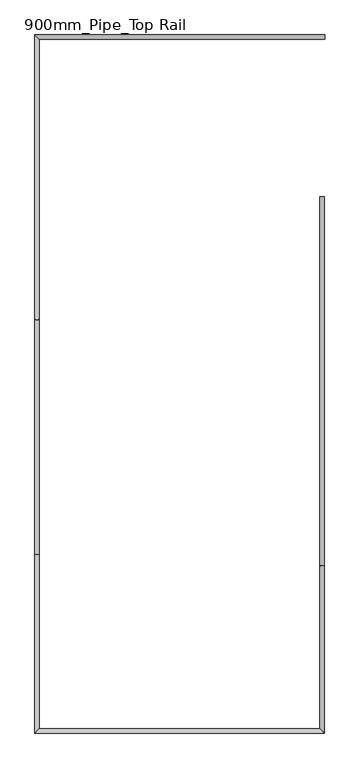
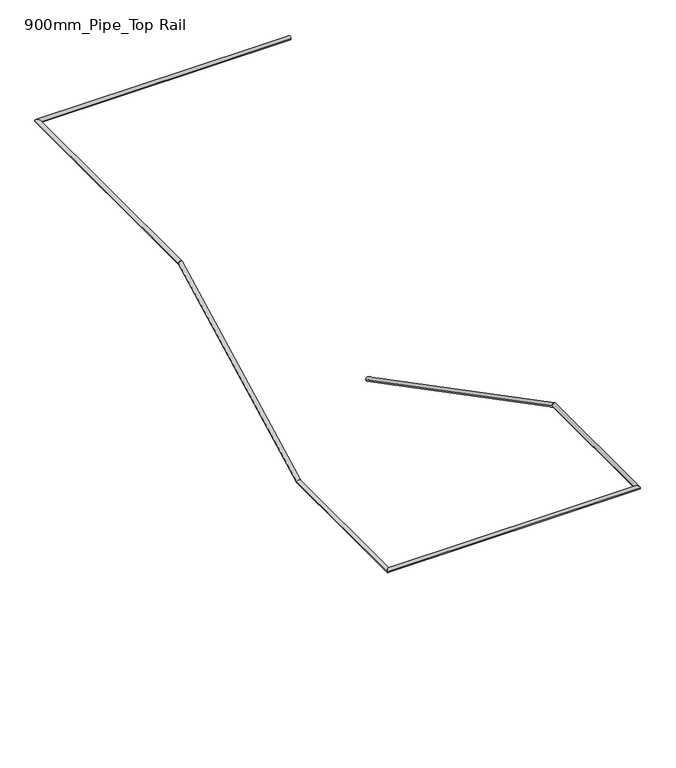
"""IFC4 building model written with IfcOpenShell, lengths in millimetres: railing geometry, 900mm_Pipe_Top Rail."""

from ifc_helpers import new_model, si_unit, frame, origin, place, context, project, spatial, circle_curve, ellipse_curve, source, transform, mapped, element, save
from ifc_brep_helpers import plane_surface, cylinder_surface, advanced_brep


def railing_900mm_pipe_top_rail_b9cd46f8(model_context):
    return source(origin(), model_context, "Body", "AdvancedBrep", [
        advanced_brep(
        [(-10790.2146087, 13819.8960687, 12140.0), (-10790.2146087, 13859.8960687, 12140.0), (-13385.3216429, 13859.8960687, 12140.0), (-13345.3216429, 13819.8960687, 12140.0), (-13385.3216429, 11319.7922565, 12140.0), (-13345.3216429, 11319.7922565, 12140.0), (-10795.2146087, 7619.8960673, 11046.25), (-10835.2146087, 7659.8960673, 11046.25), (-13345.3216429, 7659.8960673, 11046.25), (-13385.3216429, 7619.8960673, 11046.25), (-10795.2146087, 9109.9972244, 11046.25), (-10835.2146087, 9109.9972244, 11046.25), (-10835.2146087, 12414.8934136, 9324.9499015), (-10795.2146087, 12414.8934136, 9324.9499015), (-13345.3216429, 9219.7922565, 11046.25), (-13385.3216429, 9219.7922565, 11046.25)],
        [
            (0, 1, circle_curve(frame((-10790.2146087, 13839.8960687, 12140.0), z_axis=(1.0, 0.0, 0.0), x_axis=(0.0, 1.0, 0.0)), 20.0)),
            (1, 0, circle_curve(frame((-10790.2146087, 13839.8960687, 12140.0), z_axis=(1.0, 0.0, 0.0), x_axis=(0.0, 1.0, 0.0)), 20.0)),
            (2, 3, ellipse_curve(frame((-13365.3216429, 13839.8960687, 12140.0), z_axis=(0.7071067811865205, 0.7071067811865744, 0.0), x_axis=(-0.7071067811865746, 0.7071067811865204, 0.0)), 28.2842712, 20.0)),
            (3, 0),
            (1, 2),
            (3, 2, ellipse_curve(frame((-13365.3216429, 13839.8960687, 12140.0), z_axis=(0.7071067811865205, 0.7071067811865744, 0.0), x_axis=(-0.7071067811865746, 0.7071067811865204, 0.0)), 28.2842712, 20.0)),
            (4, 5, ellipse_curve(frame((-13365.3216429, 11319.7922565, 12140.0), z_axis=(0.0, 0.9713171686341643, 0.2377876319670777), x_axis=(0.0, -0.2377876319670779, 0.9713171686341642)), 20.5905966, 20.0)),
            (5, 3),
            (2, 4),
            (5, 4, ellipse_curve(frame((-13365.3216429, 11319.7922565, 12140.0), z_axis=(0.0, 0.9713171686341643, 0.2377876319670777), x_axis=(0.0, -0.2377876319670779, 0.9713171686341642)), 20.5905966, 20.0)),
            (6, 7, ellipse_curve(frame((-10815.2146087, 7639.8960673, 11046.25), z_axis=(-0.7071067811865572, -0.7071067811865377, 0.0), x_axis=(0.7071067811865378, -0.7071067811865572, 0.0)), 28.2842712, 20.0)),
            (7, 8),
            (8, 9, ellipse_curve(frame((-13365.3216429, 7639.8960673, 11046.25), z_axis=(0.7071067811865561, -0.7071067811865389, 0.0), x_axis=(0.7071067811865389, 0.7071067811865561, 0.0)), 28.2842712, 20.0)),
            (9, 6),
            (7, 6, ellipse_curve(frame((-10815.2146087, 7639.8960673, 11046.25), z_axis=(-0.7071067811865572, -0.7071067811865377, 0.0), x_axis=(0.7071067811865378, -0.7071067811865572, 0.0)), 28.2842712, 20.0)),
            (9, 8, ellipse_curve(frame((-13365.3216429, 7639.8960673, 11046.25), z_axis=(0.7071067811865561, -0.7071067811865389, 0.0), x_axis=(0.7071067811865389, 0.7071067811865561, 0.0)), 28.2842712, 20.0)),
            (10, 11, ellipse_curve(frame((-10815.2146087, 9109.9972244, 11046.25), z_axis=(0.0, -0.9713171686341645, 0.23778763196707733), x_axis=(0.0, 0.2377876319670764, 0.9713171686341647)), 20.5905966, 20.0)),
            (11, 7),
            (6, 10),
            (11, 10, ellipse_curve(frame((-10815.2146087, 9109.9972244, 11046.25), z_axis=(0.0, -0.9713171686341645, 0.23778763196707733), x_axis=(0.0, 0.2377876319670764, 0.9713171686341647)), 20.5905966, 20.0)),
            (12, 13, ellipse_curve(frame((-10815.2146087, 12414.8934136, 9324.9499015), z_axis=(0.0, 1.0, 0.0), x_axis=(0.0, 0.0, -1.0)), 22.5500985, 20.0)),
            (13, 12, ellipse_curve(frame((-10815.2146087, 12414.8934136, 9324.9499015), z_axis=(0.0, 1.0, 0.0), x_axis=(0.0, 0.0, -1.0)), 22.5500985, 20.0)),
            (12, 11),
            (10, 13),
            (8, 14),
            (14, 15, ellipse_curve(frame((-13365.3216429, 9219.7922565, 11046.25), z_axis=(0.0, -0.9713171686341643, -0.23778763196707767), x_axis=(0.0, -0.2377876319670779, 0.9713171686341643)), 20.5905966, 20.0)),
            (15, 9),
            (15, 14, ellipse_curve(frame((-13365.3216429, 9219.7922565, 11046.25), z_axis=(0.0, -0.9713171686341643, -0.23778763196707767), x_axis=(0.0, -0.2377876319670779, 0.9713171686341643)), 20.5905966, 20.0)),
            (14, 5),
            (4, 15),
        ],
        [
            plane_surface(frame((-10790.2146087, 13839.8960687, 12160.0), z_axis=(1.0, 0.0, 0.0), x_axis=(0.0, 1.0, 0.0))),
            cylinder_surface(frame((-13365.3216429, 13839.8960687, 12140.0), z_axis=(-1.0, 0.0, 0.0), x_axis=(0.0, 1.0, 0.0)), 20.0),
            cylinder_surface(frame((-13365.3216429, 11314.8960673, 12140.0), z_axis=(0.0, -1.0, 0.0), x_axis=(-1.0, 0.0, 0.0)), 20.0),
            cylinder_surface(frame((-10815.2146087, 7639.8960673, 11046.25), z_axis=(1.0, 0.0, 0.0), x_axis=(0.0, -1.0, 0.0)), 20.0),
            cylinder_surface(frame((-10815.2146087, 9114.8934136, 11046.25), z_axis=(0.0, 1.0, 0.0), x_axis=(1.0, 0.0, 0.0)), 20.0),
            plane_surface(frame((-10815.2146087, 12414.8934136, 9347.5), z_axis=(0.0, 1.0, 0.0), x_axis=(0.0, 0.0, -1.0))),
            cylinder_surface(frame((-10815.2146087, 12405.6547253, 9329.7617183), z_axis=(0.0, 0.8869140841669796, -0.4619344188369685), x_axis=(1.0, 0.0, 0.0)), 20.0),
            cylinder_surface(frame((-13365.3216429, 7639.8960673, 11046.25), z_axis=(0.0, -1.0, 0.0), x_axis=(-1.0, 0.0, 0.0)), 20.0),
            cylinder_surface(frame((-13365.3216429, 9224.1347557, 11048.5117183), z_axis=(0.0, -0.8869140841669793, -0.4619344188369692), x_axis=(-1.0, 0.0, 0.0)), 20.0),
        ],
        [
            (0, [[1, 2]]),
            (1, [[3, 4, -2, 5]]),
            (1, [[6, -5, -1, -4]]),
            (2, [[7, 8, -3, 9]]),
            (2, [[10, -9, -6, -8]]),
            (3, [[11, 12, 13, 14]]),
            (3, [[15, -14, 16, -12]]),
            (4, [[17, 18, -11, 19]]),
            (4, [[20, -19, -15, -18]]),
            (5, [[21, 22]]),
            (6, [[-21, 23, -17, 24]]),
            (6, [[-22, -24, -20, -23]]),
            (7, [[-13, 25, 26, 27]]),
            (7, [[-16, -27, 28, -25]]),
            (8, [[-26, 29, -7, 30]]),
            (8, [[-28, -30, -10, -29]]),
        ],
    ),
    ])


if __name__ == "__main__":
    model = new_model("IFC4")
    model_context = context("Model", 3, world=origin())
    ifc_project = project(units=[si_unit("LENGTHUNIT", "METRE", prefix="MILLI")], contexts=[model_context])
    site = spatial("IfcSite", under=ifc_project)
    building = spatial("IfcBuilding", under=site)
    placement = place(None, origin())
    railing_900mm_pipe_top_rail_shape = railing_900mm_pipe_top_rail_b9cd46f8(model_context)
    element("IfcRailing", 1, ObjectType="900mm_Pipe_Top Rail", at=placement, inside=building, context=model_context, shape_type="MappedRepresentation", body=[
        mapped(railing_900mm_pipe_top_rail_shape, transform((0.0, 0.0, 0.0), x_axis=(1.0, 0.0, 0.0), y_axis=(0.0, 1.0, 0.0), z_axis=(0.0, 0.0, 1.0))),
    ])
    save(model, "model.ifc")
